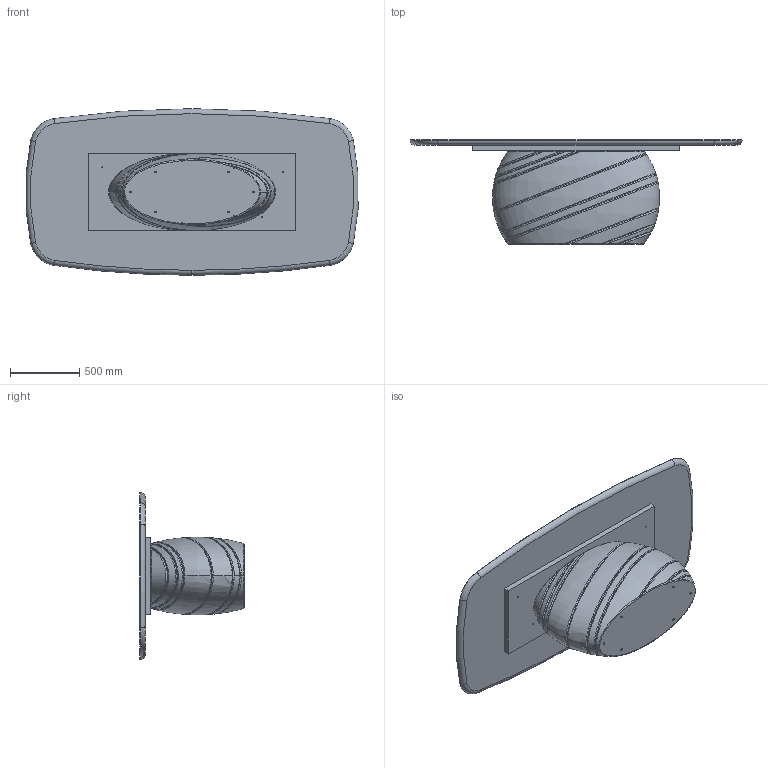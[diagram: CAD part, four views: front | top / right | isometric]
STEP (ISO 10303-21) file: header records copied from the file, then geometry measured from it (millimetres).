
FILE_DESCRIPTION (( 'STEP AP203' ), '1' );
FILE_NAME ('legno 240x120 sag.STEP', '2025-05-26T14:04:08', ( '' ), ( '' ), 'SwSTEP 2.0', 'SolidWorks 2022', '' );
FILE_SCHEMA (( 'CONFIG_CONTROL_DESIGN' ));
Length unit declared in the file: millimetre
Products named in the file (3): PIANI_modello 3D x web_Legno 240x120 sag; GIB000xxx-00-BASE GIOVE X 300; legno 240x120 sag
Assembly tree (2 placements, depth 2):
  legno 240x120 sag
    PIANI_modello 3D x web_Legno 240x120 sag
    GIB000xxx-00-BASE GIOVE X 300
Bounding box: 2391.62 x 750 x 1200 mm (x, y, z)
Volume: 449162165.7 mm3; surface area: 10065757.9 mm2
Topology: 3 solids, 3 shells, 170 faces, 414 edges, 265 vertices
Faces by surface type: cylinder 53, bspline 53, plane 31, cone 24, torus 9
Entity records: 37659 total; most frequent: CARTESIAN_POINT 33677, ORIENTED_EDGE 828, DIRECTION 665, EDGE_CURVE 414, AXIS2_PLACEMENT_3D 282, VERTEX_POINT 265, EDGE_LOOP 205, ADVANCED_FACE 170
